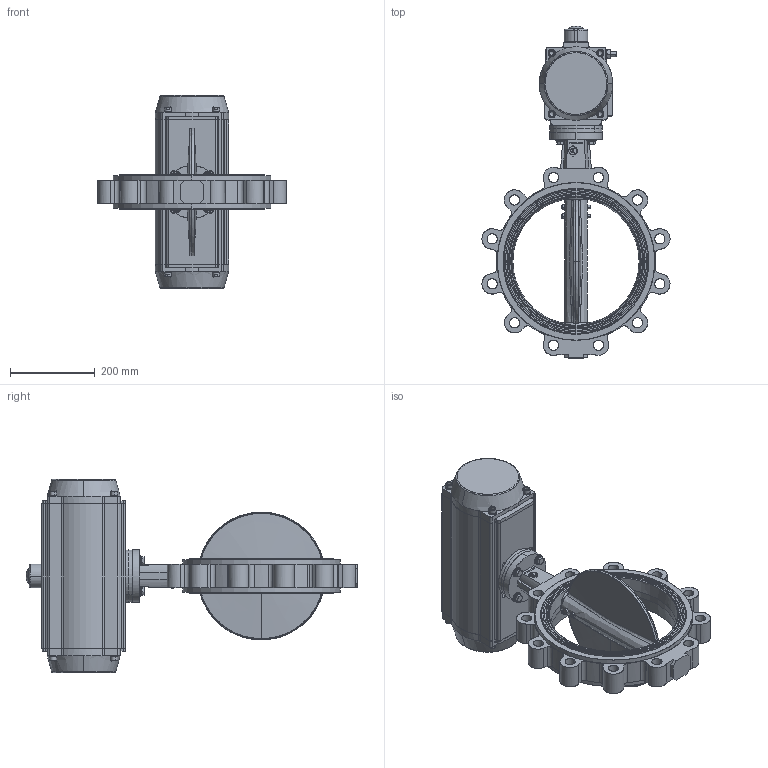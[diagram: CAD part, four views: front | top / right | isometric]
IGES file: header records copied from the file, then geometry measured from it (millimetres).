
Start section: SolidWorks IGES file using analytic representation for surfaces
Global section: file name: H:\BE FABRICATION\BE SERIE\VP\VP SERIE\F072 VPG\plan 3D\VPG-N03\LUG\DN300 PN16\VPG464X-N03XX0300.igs; native system: SolidWorks 2020; preprocessor: SolidWorks 2020; author: k.gigout; date: 220627.175307; units: millimetre
Bounding box: 444.03 x 783.67 x 456 mm (x, y, z)
Surface area: 1069460.1 mm2 (no closed solid volume)
Topology: 0 solids, 0 shells, 756 faces, 21660 edges, 21656 vertices
Faces by surface type: bspline 391, revolution 365
